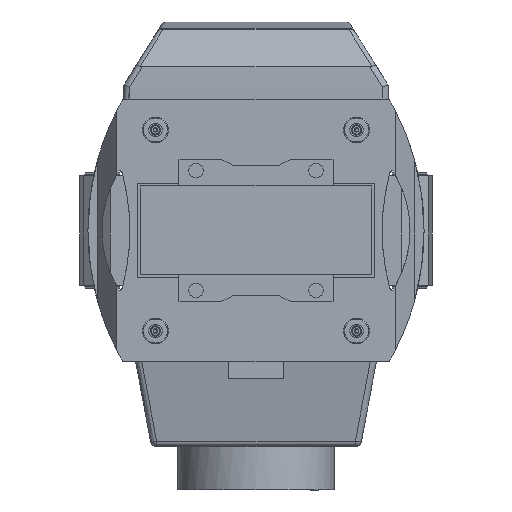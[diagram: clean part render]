
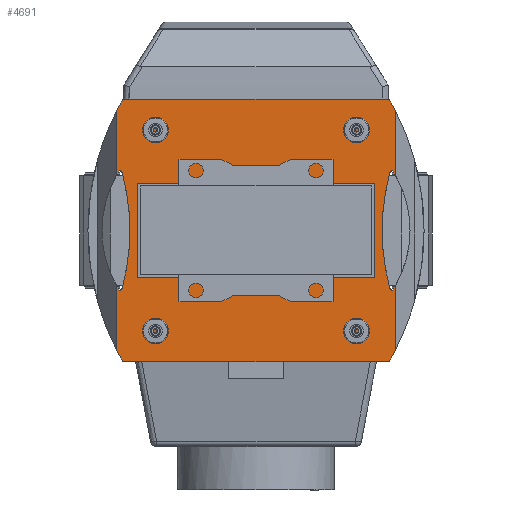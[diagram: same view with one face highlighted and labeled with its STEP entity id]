
A CAD part, front view. The second image highlights one B-rep face of the part: STEP entity #4691.
In plain terms, the highlighted planar face has unit normal (0, -1, 0).
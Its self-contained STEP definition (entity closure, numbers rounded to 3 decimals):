
#261=PLANE('',#5170);
#466=FACE_OUTER_BOUND('',#746,.T.);
#746=EDGE_LOOP('',(#3615,#3616,#3617,#3618,#3619,#3620,#3621,#3622,#3623,
#3624,#3625,#3626,#3627,#3628,#3629,#3630,#3631,#3632,#3633,#3634,#3635,
#3636));
#968=LINE('',#7302,#1354);
#987=LINE('',#7382,#1373);
#988=LINE('',#7388,#1374);
#989=LINE('',#7396,#1375);
#990=LINE('',#7401,#1376);
#1005=LINE('',#7456,#1391);
#1354=VECTOR('',#5878,10.);
#1373=VECTOR('',#5955,10.);
#1374=VECTOR('',#5960,10.);
#1375=VECTOR('',#5969,10.);
#1376=VECTOR('',#5974,10.);
#1391=VECTOR('',#6045,10.);
#1829=CIRCLE('',#5140,5.083);
#1830=CIRCLE('',#5142,260.235);
#1831=CIRCLE('',#5144,260.235);
#1832=CIRCLE('',#5146,260.235);
#1833=CIRCLE('',#5148,260.235);
#1834=CIRCLE('',#5150,5.083);
#1835=CIRCLE('',#5152,130.001);
#1836=CIRCLE('',#5154,130.001);
#1837=CIRCLE('',#5156,5.083);
#1838=CIRCLE('',#5158,5.083);
#1839=CIRCLE('',#5160,130.001);
#1840=CIRCLE('',#5162,130.001);
#1841=CIRCLE('',#5164,308.92);
#1842=CIRCLE('',#5165,308.92);
#1843=CIRCLE('',#5168,308.92);
#1844=CIRCLE('',#5169,308.92);
#2065=VERTEX_POINT('',#7299);
#2066=VERTEX_POINT('',#7301);
#2097=VERTEX_POINT('',#7379);
#2098=VERTEX_POINT('',#7381);
#2100=VERTEX_POINT('',#7385);
#2101=VERTEX_POINT('',#7387);
#2102=VERTEX_POINT('',#7391);
#2103=VERTEX_POINT('',#7393);
#2104=VERTEX_POINT('',#7395);
#2106=VERTEX_POINT('',#7399);
#2107=VERTEX_POINT('',#7403);
#2108=VERTEX_POINT('',#7405);
#2109=VERTEX_POINT('',#7409);
#2110=VERTEX_POINT('',#7413);
#2111=VERTEX_POINT('',#7417);
#2112=VERTEX_POINT('',#7419);
#2113=VERTEX_POINT('',#7423);
#2114=VERTEX_POINT('',#7427);
#2115=VERTEX_POINT('',#7434);
#2116=VERTEX_POINT('',#7440);
#2117=VERTEX_POINT('',#7450);
#2118=VERTEX_POINT('',#7454);
#2591=EDGE_CURVE('',#2065,#2066,#968,.T.);
#2631=EDGE_CURVE('',#2098,#2097,#987,.T.);
#2634=EDGE_CURVE('',#2101,#2100,#988,.T.);
#2638=EDGE_CURVE('',#2104,#2103,#989,.T.);
#2641=EDGE_CURVE('',#2102,#2106,#990,.T.);
#2643=EDGE_CURVE('',#2107,#2108,#1829,.T.);
#2646=EDGE_CURVE('',#2109,#2107,#1830,.T.);
#2648=EDGE_CURVE('',#2110,#2109,#1831,.T.);
#2650=EDGE_CURVE('',#2111,#2112,#1832,.T.);
#2653=EDGE_CURVE('',#2113,#2111,#1833,.T.);
#2655=EDGE_CURVE('',#2114,#2113,#1834,.T.);
#2657=EDGE_CURVE('',#2098,#2114,#1835,.T.);
#2659=EDGE_CURVE('',#2115,#2100,#1836,.T.);
#2660=EDGE_CURVE('',#2112,#2115,#1837,.T.);
#2662=EDGE_CURVE('',#2116,#2110,#1838,.T.);
#2664=EDGE_CURVE('',#2104,#2116,#1839,.T.);
#2665=EDGE_CURVE('',#2108,#2106,#1840,.T.);
#2666=EDGE_CURVE('',#2102,#2065,#1841,.T.);
#2668=EDGE_CURVE('',#2117,#2103,#1842,.T.);
#2670=EDGE_CURVE('',#2118,#2117,#1005,.T.);
#2671=EDGE_CURVE('',#2066,#2097,#1843,.T.);
#2672=EDGE_CURVE('',#2101,#2118,#1844,.T.);
#3615=ORIENTED_EDGE('',*,*,#2631,.T.);
#3616=ORIENTED_EDGE('',*,*,#2671,.F.);
#3617=ORIENTED_EDGE('',*,*,#2591,.F.);
#3618=ORIENTED_EDGE('',*,*,#2666,.F.);
#3619=ORIENTED_EDGE('',*,*,#2641,.T.);
#3620=ORIENTED_EDGE('',*,*,#2665,.F.);
#3621=ORIENTED_EDGE('',*,*,#2643,.F.);
#3622=ORIENTED_EDGE('',*,*,#2646,.F.);
#3623=ORIENTED_EDGE('',*,*,#2648,.F.);
#3624=ORIENTED_EDGE('',*,*,#2662,.F.);
#3625=ORIENTED_EDGE('',*,*,#2664,.F.);
#3626=ORIENTED_EDGE('',*,*,#2638,.T.);
#3627=ORIENTED_EDGE('',*,*,#2668,.F.);
#3628=ORIENTED_EDGE('',*,*,#2670,.F.);
#3629=ORIENTED_EDGE('',*,*,#2672,.F.);
#3630=ORIENTED_EDGE('',*,*,#2634,.T.);
#3631=ORIENTED_EDGE('',*,*,#2659,.F.);
#3632=ORIENTED_EDGE('',*,*,#2660,.F.);
#3633=ORIENTED_EDGE('',*,*,#2650,.F.);
#3634=ORIENTED_EDGE('',*,*,#2653,.F.);
#3635=ORIENTED_EDGE('',*,*,#2655,.F.);
#3636=ORIENTED_EDGE('',*,*,#2657,.F.);
#4691=ADVANCED_FACE('',(#466),#261,.T.);
#5140=AXIS2_PLACEMENT_3D('',#7406,#5978,#5979);
#5142=AXIS2_PLACEMENT_3D('',#7411,#5984,#5985);
#5144=AXIS2_PLACEMENT_3D('',#7415,#5989,#5990);
#5146=AXIS2_PLACEMENT_3D('',#7420,#5994,#5995);
#5148=AXIS2_PLACEMENT_3D('',#7425,#6000,#6001);
#5150=AXIS2_PLACEMENT_3D('',#7429,#6005,#6006);
#5152=AXIS2_PLACEMENT_3D('',#7432,#6010,#6011);
#5154=AXIS2_PLACEMENT_3D('',#7436,#6015,#6016);
#5156=AXIS2_PLACEMENT_3D('',#7438,#6019,#6020);
#5158=AXIS2_PLACEMENT_3D('',#7442,#6024,#6025);
#5160=AXIS2_PLACEMENT_3D('',#7445,#6029,#6030);
#5162=AXIS2_PLACEMENT_3D('',#7447,#6033,#6034);
#5164=AXIS2_PLACEMENT_3D('',#7449,#6037,#6038);
#5165=AXIS2_PLACEMENT_3D('',#7452,#6040,#6041);
#5168=AXIS2_PLACEMENT_3D('',#7458,#6048,#6049);
#5169=AXIS2_PLACEMENT_3D('',#7459,#6050,#6051);
#5170=AXIS2_PLACEMENT_3D('',#7460,#6052,#6053);
#5878=DIRECTION('',(-1.,0.,0.));
#5955=DIRECTION('',(0.,0.,-1.));
#5960=DIRECTION('',(0.,0.,-1.));
#5969=DIRECTION('',(0.,0.,1.));
#5974=DIRECTION('',(0.,0.,1.));
#5978=DIRECTION('center_axis',(0.,-1.,0.));
#5979=DIRECTION('ref_axis',(-0.943,0.,-0.333));
#5984=DIRECTION('center_axis',(0.,-1.,0.));
#5985=DIRECTION('ref_axis',(-1.,0.,-0.002));
#5989=DIRECTION('center_axis',(0.,-1.,0.));
#5990=DIRECTION('ref_axis',(-0.966,0.,0.258));
#5994=DIRECTION('center_axis',(0.,-1.,0.));
#5995=DIRECTION('ref_axis',(1.,0.,0.002));
#6000=DIRECTION('center_axis',(0.,-1.,0.));
#6001=DIRECTION('ref_axis',(0.966,0.,-0.258));
#6005=DIRECTION('center_axis',(0.,-1.,0.));
#6006=DIRECTION('ref_axis',(0.282,0.,-0.959));
#6010=DIRECTION('center_axis',(0.,-1.,0.));
#6011=DIRECTION('ref_axis',(-1.,0.,0.));
#6015=DIRECTION('center_axis',(0.,-1.,0.));
#6016=DIRECTION('ref_axis',(-0.843,0.,0.538));
#6019=DIRECTION('center_axis',(0.,-1.,0.));
#6020=DIRECTION('ref_axis',(0.943,0.,0.333));
#6024=DIRECTION('center_axis',(0.,-1.,0.));
#6025=DIRECTION('ref_axis',(-0.282,0.,0.959));
#6029=DIRECTION('center_axis',(0.,-1.,0.));
#6030=DIRECTION('ref_axis',(1.,0.,0.));
#6033=DIRECTION('center_axis',(0.,-1.,0.));
#6034=DIRECTION('ref_axis',(0.843,0.,-0.538));
#6037=DIRECTION('center_axis',(0.,1.,0.));
#6038=DIRECTION('ref_axis',(0.868,0.,-0.497));
#6040=DIRECTION('center_axis',(0.,1.,0.));
#6041=DIRECTION('ref_axis',(0.868,0.,-0.497));
#6045=DIRECTION('',(1.,0.,0.));
#6048=DIRECTION('center_axis',(0.,1.,0.));
#6049=DIRECTION('ref_axis',(-0.868,0.,0.497));
#6050=DIRECTION('center_axis',(0.,1.,0.));
#6051=DIRECTION('ref_axis',(-0.868,0.,0.497));
#6052=DIRECTION('center_axis',(0.,-1.,0.));
#6053=DIRECTION('ref_axis',(0.,0.,-1.));
#7299=CARTESIAN_POINT('',(155.638,-3.,-153.406));
#7301=CARTESIAN_POINT('',(-155.638,-3.,-153.406));
#7302=CARTESIAN_POINT('',(77.819,-3.,-153.406));
#7379=CARTESIAN_POINT('',(-163.194,-3.,-139.371));
#7381=CARTESIAN_POINT('',(-163.194,-3.,-63.933));
#7382=CARTESIAN_POINT('',(-163.194,-3.,-76.703));
#7385=CARTESIAN_POINT('',(-163.194,-3.,63.933));
#7387=CARTESIAN_POINT('',(-163.194,-3.,139.371));
#7388=CARTESIAN_POINT('',(-163.194,-3.,-76.703));
#7391=CARTESIAN_POINT('',(163.194,-3.,-139.371));
#7393=CARTESIAN_POINT('',(163.194,-3.,139.371));
#7395=CARTESIAN_POINT('',(163.194,-3.,63.933));
#7396=CARTESIAN_POINT('',(163.194,-3.,-76.703));
#7399=CARTESIAN_POINT('',(163.194,-3.,-63.933));
#7401=CARTESIAN_POINT('',(163.194,-3.,-76.703));
#7403=CARTESIAN_POINT('',(156.215,-3.,-66.767));
#7405=CARTESIAN_POINT('',(159.576,-3.,-69.953));
#7406=CARTESIAN_POINT('Origin',(161.009,-3.,-65.077));
#7409=CARTESIAN_POINT('',(147.399,-3.,0.));
#7411=CARTESIAN_POINT('Origin',(407.633,-3.,0.398));
#7413=CARTESIAN_POINT('',(156.215,-3.,66.767));
#7415=CARTESIAN_POINT('Origin',(407.633,-3.,-0.398));
#7417=CARTESIAN_POINT('',(-147.399,-3.,0.));
#7419=CARTESIAN_POINT('',(-156.215,-3.,66.767));
#7420=CARTESIAN_POINT('Origin',(-407.633,-3.,-0.398));
#7423=CARTESIAN_POINT('',(-156.215,-3.,-66.767));
#7425=CARTESIAN_POINT('Origin',(-407.633,-3.,0.398));
#7427=CARTESIAN_POINT('',(-159.576,-3.,-69.953));
#7429=CARTESIAN_POINT('Origin',(-161.009,-3.,-65.077));
#7432=CARTESIAN_POINT('Origin',(-50.001,-3.,0.));
#7434=CARTESIAN_POINT('',(-159.576,-3.,69.953));
#7436=CARTESIAN_POINT('Origin',(-50.001,-3.,0.));
#7438=CARTESIAN_POINT('Origin',(-161.009,-3.,65.077));
#7440=CARTESIAN_POINT('',(159.576,-3.,69.953));
#7442=CARTESIAN_POINT('Origin',(161.009,-3.,65.077));
#7445=CARTESIAN_POINT('Origin',(50.001,-3.,0.));
#7447=CARTESIAN_POINT('Origin',(50.001,-3.,0.));
#7449=CARTESIAN_POINT('Origin',(-112.5,-3.,0.));
#7450=CARTESIAN_POINT('',(155.638,-3.,153.406));
#7452=CARTESIAN_POINT('Origin',(-112.5,-3.,0.));
#7454=CARTESIAN_POINT('',(-155.638,-3.,153.406));
#7456=CARTESIAN_POINT('',(-77.819,-3.,153.406));
#7458=CARTESIAN_POINT('Origin',(112.5,-3.,0.));
#7459=CARTESIAN_POINT('Origin',(112.5,-3.,0.));
#7460=CARTESIAN_POINT('Origin',(0.,-3.,0.));
